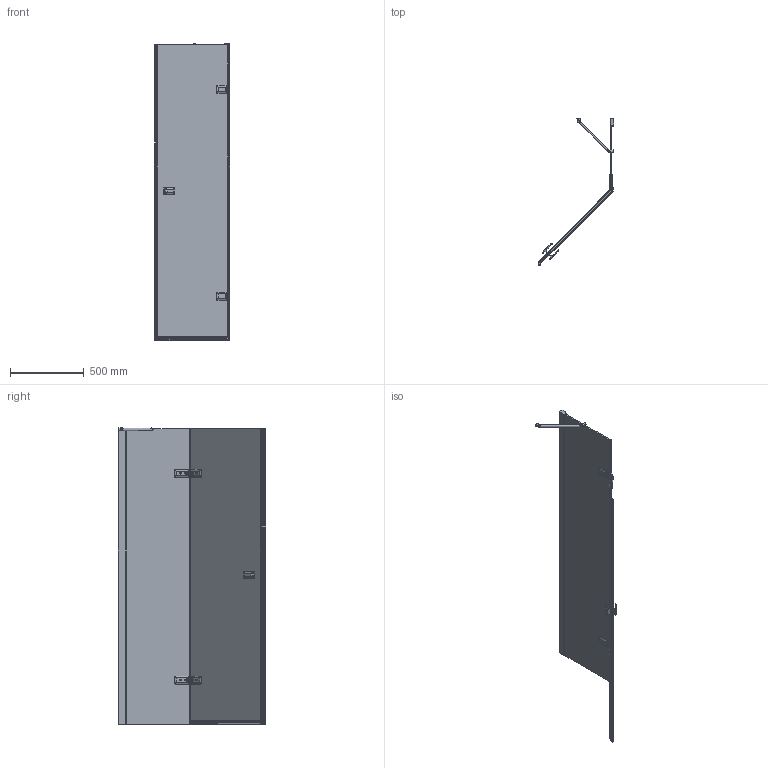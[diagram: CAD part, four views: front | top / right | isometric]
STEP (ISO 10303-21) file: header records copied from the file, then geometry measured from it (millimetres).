
FILE_DESCRIPTION(/* description */ (''),/* implementation_level */ '2;1');
FILE_NAME(/* name */ 'E:\Работа\Сергей\Душевые кабинки\! Работа\TREND DOOR GK-862AGP135TWO-02\TREND DOOR GK-862AGP135TWO-02 правая модель\TREND DOOR GK-862AGP135TWO-02 ПРАВАЯ-3D.stp',/* time_stamp */ '2017-08-27T17:26:23+03:00',/* author */ ('PC'),/* organization */ (''),/* preprocessor_version */ 'ST-DEVELOPER v15.2',/* originating_system */ 'Autodesk Inventor 2014',/* authorisation */ '');
FILE_SCHEMA (('AUTOMOTIVE_DESIGN { 1 0 10303 214 3 1 1 }'));
Products named in the file (1): TREND DOOR GK-862AGP135TWO-02 \X2\041F0420041004120410
042F\X0\-3D
Bounding box: 511.75 x 995.11 x 2009.49 mm (x, y, z)
Volume: 18713065.5 mm3; surface area: 5184285.4 mm2
Topology: 6 solids, 6 shells, 1196 faces, 3265 edges, 2054 vertices
Faces by surface type: plane 722, cylinder 290, bspline 136, torus 21, cone 18, sphere 9
Full cylindrical faces by diameter (mm): 6 x2, 9 x8, 13 x2, 15 x1, 20 x2, 26 x1
Entity records: 54474 total; most frequent: CARTESIAN_POINT 23738, ORIENTED_EDGE 6360, DIRECTION 5907, EDGE_CURVE 3180, VERTEX_POINT 2038, LINE 1985, VECTOR 1985, AXIS2_PLACEMENT_3D 1961
